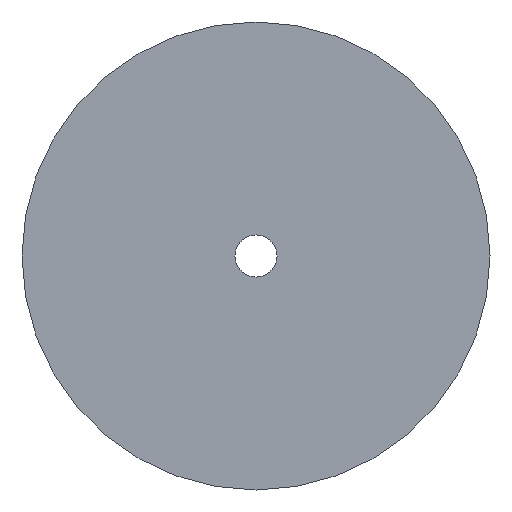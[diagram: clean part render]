
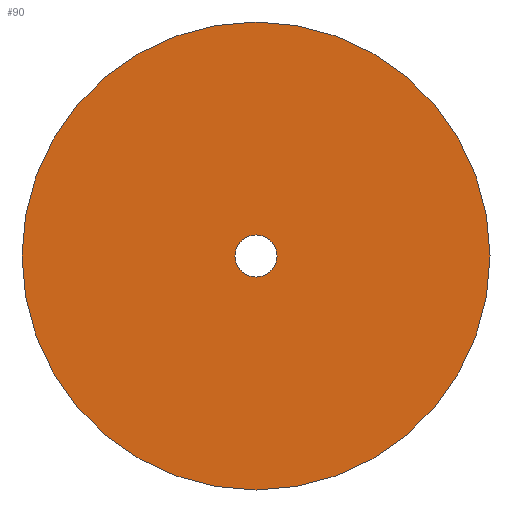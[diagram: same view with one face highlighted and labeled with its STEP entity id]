
A CAD part, front view. The second image highlights one B-rep face of the part: STEP entity #90.
In plain terms, the highlighted planar face has unit normal (0, -1, 0).
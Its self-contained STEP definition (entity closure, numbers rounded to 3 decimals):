
#3 = CARTESIAN_POINT ( 'NONE',  ( 0., 0., 0. ) ) ;
#6 = DIRECTION ( 'NONE',  ( 0., 0., 1. ) ) ;
#12 = DIRECTION ( 'NONE',  ( 0., 1., 0. ) ) ;
#28 = AXIS2_PLACEMENT_3D ( 'NONE', #136, #92, #185 ) ;
#35 = PLANE ( 'NONE',  #135 ) ;
#38 = AXIS2_PLACEMENT_3D ( 'NONE', #147, #171, #220 ) ;
#51 = ORIENTED_EDGE ( 'NONE', *, *, #248, .F. ) ;
#55 = DIRECTION ( 'NONE',  ( 0., 0., 1. ) ) ;
#69 = ORIENTED_EDGE ( 'NONE', *, *, #78, .F. ) ;
#78 = EDGE_CURVE ( 'NONE', #93, #235, #83, .T. ) ;
#80 = CARTESIAN_POINT ( 'NONE',  ( 0., 0., 25. ) ) ;
#83 = CIRCLE ( 'NONE', #209, 25. ) ;
#85 = CARTESIAN_POINT ( 'NONE',  ( 0., 0., 2.25 ) ) ;
#90 = ADVANCED_FACE ( 'NONE', ( #241, #131 ), #35, .F. ) ;
#92 = DIRECTION ( 'NONE',  ( 0., 1., 0. ) ) ;
#93 = VERTEX_POINT ( 'NONE', #177 ) ;
#111 = EDGE_CURVE ( 'NONE', #119, #273, #219, .T. ) ;
#119 = VERTEX_POINT ( 'NONE', #240 ) ;
#131 = FACE_BOUND ( 'NONE', #167, .T. ) ;
#133 = CARTESIAN_POINT ( 'NONE',  ( 0., 0., 0. ) ) ;
#135 = AXIS2_PLACEMENT_3D ( 'NONE', #133, #12, #286 ) ;
#136 = CARTESIAN_POINT ( 'NONE',  ( 0., 0., 0. ) ) ;
#142 = ORIENTED_EDGE ( 'NONE', *, *, #274, .T. ) ;
#147 = CARTESIAN_POINT ( 'NONE',  ( 0., 0., 0. ) ) ;
#160 = CIRCLE ( 'NONE', #28, 2.25 ) ;
#167 = EDGE_LOOP ( 'NONE', ( #190, #142 ) ) ;
#171 = DIRECTION ( 'NONE',  ( 0., 1., 0. ) ) ;
#177 = CARTESIAN_POINT ( 'NONE',  ( 0., 0., -25. ) ) ;
#178 = CARTESIAN_POINT ( 'NONE',  ( 0., 0., 0. ) ) ;
#185 = DIRECTION ( 'NONE',  ( 0., 0., 1. ) ) ;
#190 = ORIENTED_EDGE ( 'NONE', *, *, #111, .T. ) ;
#200 = AXIS2_PLACEMENT_3D ( 'NONE', #178, #243, #6 ) ;
#209 = AXIS2_PLACEMENT_3D ( 'NONE', #3, #287, #55 ) ;
#219 = CIRCLE ( 'NONE', #38, 2.25 ) ;
#220 = DIRECTION ( 'NONE',  ( 0., 0., 1. ) ) ;
#231 = EDGE_LOOP ( 'NONE', ( #69, #51 ) ) ;
#235 = VERTEX_POINT ( 'NONE', #80 ) ;
#240 = CARTESIAN_POINT ( 'NONE',  ( 0., 0., -2.25 ) ) ;
#241 = FACE_OUTER_BOUND ( 'NONE', #231, .T. ) ;
#243 = DIRECTION ( 'NONE',  ( 0., 1., 0. ) ) ;
#248 = EDGE_CURVE ( 'NONE', #235, #93, #288, .T. ) ;
#273 = VERTEX_POINT ( 'NONE', #85 ) ;
#274 = EDGE_CURVE ( 'NONE', #273, #119, #160, .T. ) ;
#286 = DIRECTION ( 'NONE',  ( 0., 0., 1. ) ) ;
#287 = DIRECTION ( 'NONE',  ( 0., 1., 0. ) ) ;
#288 = CIRCLE ( 'NONE', #200, 25. ) ;
